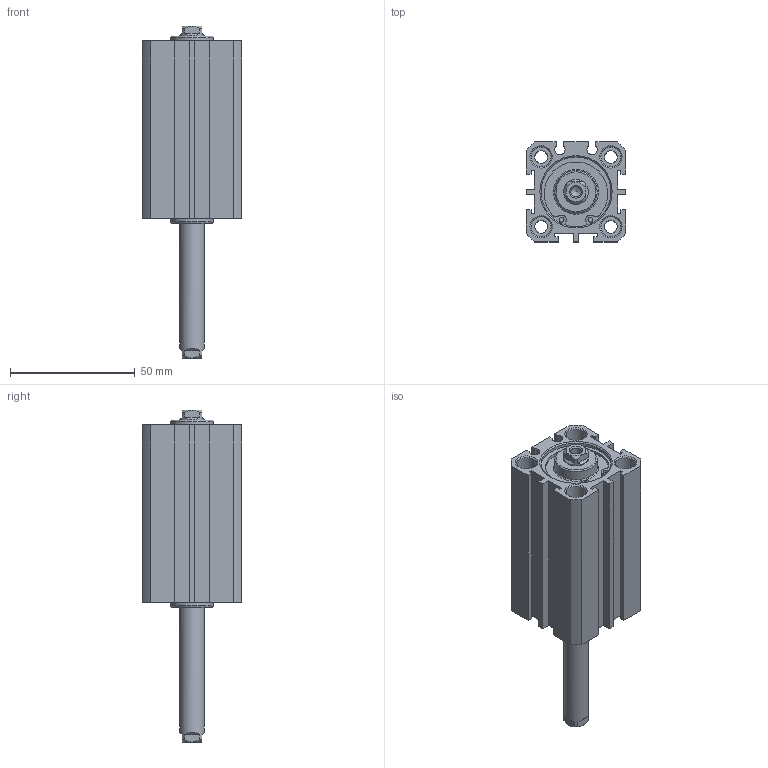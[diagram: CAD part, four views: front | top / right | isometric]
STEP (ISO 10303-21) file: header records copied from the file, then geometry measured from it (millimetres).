
FILE_DESCRIPTION((''),'2;1');
FILE_NAME('I:\3D電子目錄\氣缸\JDD\JDD\JDD25\JDD25x50.stp','2007-02-08T09:26:38',('662F206'),(''),'Autodesk Inventor 10','Autodesk Inventor 10','');
FILE_SCHEMA(('AUTOMOTIVE_DESIGN { 1 0 10303 214 1 1 1 1 }'));
Length unit declared in the file: millimetre
Products named in the file (3): JDD25; R 形環 28
Assembly tree (3 placements, depth 2):
  JDD25
    JDD25
    R 形環 28  x2
Bounding box: 40 x 40 x 133.2 mm (x, y, z)
Volume: 96241.9 mm3; surface area: 28624.2 mm2
Topology: 3 solids, 3 shells, 172 faces, 410 edges, 266 vertices
Faces by surface type: plane 92, cylinder 46, cone 22, bspline 10, torus 2
Full cylindrical faces by diameter (mm): 1.5 x2, 1.9 x4, 5.1 x4, 8 x8, 10 x2, 17 x2, 28 x4, 29.4 x2
Entity records: 4529 total; most frequent: CARTESIAN_POINT 950, DIRECTION 740, ORIENTED_EDGE 640, EDGE_CURVE 320, AXIS2_PLACEMENT_3D 280, EDGE_LOOP 244, VERTEX_POINT 236, VECTOR 180
